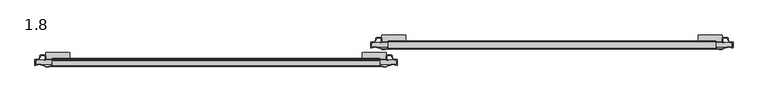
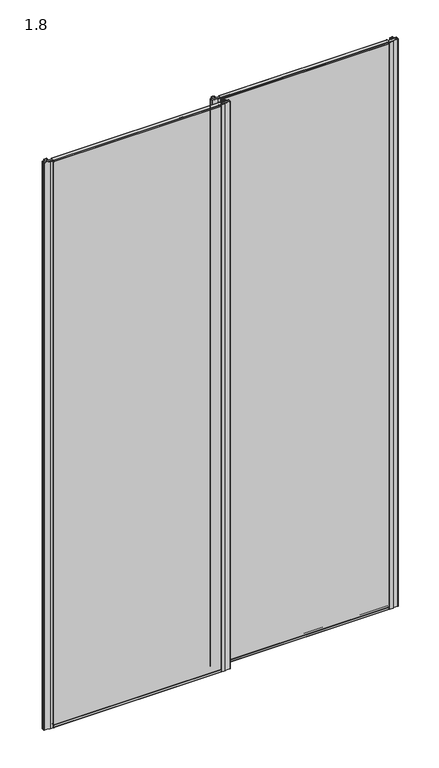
"""IFC4 building model written with IfcOpenShell, lengths in millimetres: proxy geometry, Doors-Other- SOGAL-SOG020022 : 1.8."""

from ifc_helpers import new_model, si_unit, point, frame, frame_2d, origin, place, context, project, spatial, polyline, circle_curve, trimmed, segment, composite_curve, outline, extrude, source, transform, mapped, element, save
from ifc_brep_helpers import plane_surface, cylinder_surface, advanced_brep


def proxy_1_8_f4c32746(model_context):
    return source(origin(), model_context, "Body", "SolidModel", [
        extrude(outline(polyline([(35.7189733, 0.5001148), (33.2189805, 0.5001148), (31.7000096, 9.1146495), (35.3189977, 9.1146495), (35.3189977, 1.8001808), (37.0189963, 1.8001808), (35.7189733, 0.5001148)])), frame((-3.431231, 0.0, 0.0), z_axis=(1.0, 0.0, 0.0), x_axis=(0.0, 1.0, 0.0)), (0.0, 0.0, 1.0), 3.4418784),
        extrude(outline(polyline([(31.9189872, 0.5001148), (30.6189642, 1.8001808), (32.3189628, 1.8001808), (32.3189628, 9.1146495), (35.9379509, 9.1146495), (34.41898, 0.5001148), (31.9189872, 0.5001148)])), frame((0.3258571, 0.0, 0.0), z_axis=(1.0, 0.0, 0.0), x_axis=(0.0, 1.0, 0.0)), (0.0, 0.0, 1.0), 3.3556559),
        advanced_brep(
        [(5.6593371, 38.8253348, 101.7001877), (4.165725, 40.3189469, 101.7001877), (-48.1393518, 40.3189469, 101.7001877), (-49.6393329, 38.8189658, 101.7001877), (-49.6393556, 26.6175523, 101.7001877), (-48.6393531, 25.6190084, 101.7001877), (4.6607357, 25.6190084, 101.7001877), (5.6607474, 26.61902, 101.7001877), (5.6607474, 38.8189658, 9.1146495), (5.6607474, 26.61902, 9.1146495), (4.6607357, 25.6190084, 9.1146495), (-48.6393531, 25.6190084, 9.1146495), (-49.637897, 26.6175523, 9.1146495), (-49.6393556, 38.8189658, 9.1146495), (-48.1393518, 40.3189469, 9.1146495), (4.165725, 40.3189469, 9.1146495)],
        [
            (0, 1, circle_curve(frame((4.165725, 38.8253348, 101.7001877), z_axis=(0.0, 0.0, 1.0), x_axis=(-1.0, 0.0, 0.0)), 1.4936121)),
            (1, 2),
            (2, 3, circle_curve(frame((-48.1393518, 38.8189658, 101.7001877), z_axis=(0.0, 0.0, 1.0), x_axis=(-1.0, 0.0, 0.0)), 1.4999811)),
            (3, 4),
            (4, 5, circle_curve(frame((-48.6393531, 26.6175523, 101.7001877), z_axis=(0.0, 0.0, 1.0), x_axis=(-1.0, 0.0, 0.0)), 0.9985439)),
            (5, 6),
            (6, 7, circle_curve(frame((4.6607357, 26.61902, 101.7001877), z_axis=(0.0, 0.0, 1.0), x_axis=(-1.0, 0.0, 0.0)), 1.0000116)),
            (7, 0),
            (8, 9),
            (9, 10, circle_curve(frame((4.6607357, 26.61902, 9.1146495), z_axis=(0.0, 0.0, -1.0), x_axis=(-1.0, 0.0, 0.0)), 1.0000116)),
            (10, 11),
            (11, 12, circle_curve(frame((-48.6393531, 26.6175523, 9.1146495), z_axis=(0.0, 0.0, -1.0), x_axis=(-1.0, 0.0, 0.0)), 0.9985439)),
            (12, 13),
            (13, 14, circle_curve(frame((-48.1393518, 38.8189658, 9.1146495), z_axis=(0.0, 0.0, -1.0), x_axis=(-1.0, 0.0, 0.0)), 1.4999811)),
            (14, 15),
            (15, 8, circle_curve(frame((4.165725, 38.8253348, 9.1146495), z_axis=(0.0, 0.0, -1.0), x_axis=(-1.0, 0.0, 0.0)), 1.4936121)),
            (7, 9),
            (8, 0),
            (6, 10),
            (5, 11),
            (4, 12),
            (3, 13),
            (2, 14),
            (1, 15),
        ],
        [
            plane_surface(frame((5.6607474, 31.1939588, 101.7001877), z_axis=(0.0, 0.0, 1.0), x_axis=(0.0, -1.0, 0.0))),
            plane_surface(frame((5.6607474, 31.1939588, 9.1146495), z_axis=(0.0, 0.0, -1.0), x_axis=(0.0, 1.0, 0.0))),
            plane_surface(frame((5.6607474, 38.8189658, 101.7001877), z_axis=(1.0, 0.0, 0.0), x_axis=(0.0, 0.0, -1.0))),
            cylinder_surface(frame((4.6607357, 26.61902, 9.1146495), z_axis=(0.0, 0.0, 1.0), x_axis=(-1.0, 0.0, 0.0)), 1.0000116),
            plane_surface(frame((4.6607357, 25.6190084, 101.7001877), z_axis=(0.0, -1.0, 0.0), x_axis=(0.0, 0.0, -1.0))),
            cylinder_surface(frame((-48.6393531, 26.6175523, 9.1146495), z_axis=(0.0, 0.0, 1.0), x_axis=(-1.0, 0.0, 0.0)), 0.9985439),
            plane_surface(frame((-49.6393556, 26.6175523, 101.7001877), z_axis=(-1.0, 0.0, 0.0), x_axis=(0.0, 0.0, -1.0))),
            cylinder_surface(frame((-48.1393518, 38.8189658, 9.1146495), z_axis=(0.0, 0.0, 1.0), x_axis=(-1.0, 0.0, 0.0)), 1.4999811),
            plane_surface(frame((-48.1393518, 40.3189469, 101.7001877), z_axis=(0.0, 1.0, 0.0), x_axis=(0.0, 0.0, -1.0))),
            cylinder_surface(frame((4.165725, 38.8253348, 9.1146495), z_axis=(0.0, 0.0, 1.0), x_axis=(-1.0, 0.0, 0.0)), 1.4936121),
        ],
        [
            (0, [[1, 2, 3, 4, 5, 6, 7, 8]]),
            (1, [[9, 10, 11, 12, 13, 14, 15, 16]]),
            (2, [[17, -9, 18, -8]]),
            (3, [[19, -10, -17, -7]]),
            (4, [[20, -11, -19, -6]]),
            (5, [[21, -12, -20, -5]]),
            (6, [[22, -13, -21, -4]]),
            (7, [[23, -14, -22, -3]]),
            (8, [[24, -15, -23, -2]]),
            (9, [[-18, -16, -24, -1]]),
        ],
    ),
        extrude(outline(polyline([(35.7189733, 0.5001148), (33.2189805, 0.5001148), (31.7000096, 9.1146495), (35.3189977, 9.1146495), (35.3189977, 1.8001808), (37.0189963, 1.8001808), (35.7189733, 0.5001148)])), frame((-43.9893513, 0.0, 0.0), z_axis=(1.0, 0.0, 0.0), x_axis=(0.0, 1.0, 0.0)), (0.0, 0.0, 1.0), 3.4418784),
        extrude(outline(polyline([(31.9189872, 0.5001148), (30.6189642, 1.8001808), (32.3189628, 1.8001808), (32.3189628, 9.1146495), (35.9379509, 9.1146495), (34.41898, 0.5001148), (31.9189872, 0.5001148)])), frame((-47.6602169, 0.0, 0.0), z_axis=(1.0, 0.0, 0.0), x_axis=(0.0, 1.0, 0.0)), (0.0, 0.0, 1.0), 3.3556559),
        extrude(outline(composite_curve([segment(trimmed(circle_curve(frame_2d((18.4478565, -21.9704877)), 17.4793341), [point((18.4478565, -4.4911536))], [point((18.4478565, -39.4498218))], False, "CARTESIAN"), True, "CONTINUOUS"), segment(trimmed(circle_curve(frame_2d((18.4478565, -21.9704877)), 17.4793341), [point((18.4478565, -39.4498218))], [point((18.4478565, -4.4911536))], False, "CARTESIAN"), True, "CONTINUOUS")], self_intersect=False)), frame((0.0, 29.818061, 0.0), z_axis=(0.0, 1.0, 0.0), x_axis=(0.0, 0.0, 1.0)), (0.0, 0.0, 1.0), 7.9147389),
        extrude(outline(polyline([(35.7189733, 0.5001148), (33.2189805, 0.5001148), (31.7000096, 9.1146495), (35.3189977, 9.1146495), (35.3189977, 1.8001808), (37.0189963, 1.8001808), (35.7189733, 0.5001148)])), frame((-729.4523014, 0.0, 0.0), z_axis=(1.0, 0.0, 0.0), x_axis=(0.0, 1.0, 0.0)), (0.0, 0.0, 1.0), 3.4418784),
        extrude(outline(polyline([(31.9189872, 0.5001148), (30.6189642, 1.8001808), (32.3189628, 1.8001808), (32.3189628, 9.1146495), (35.9379509, 9.1146495), (34.41898, 0.5001148), (31.9189872, 0.5001148)])), frame((-725.6952133, 0.0, 0.0), z_axis=(1.0, 0.0, 0.0), x_axis=(0.0, 1.0, 0.0)), (0.0, 0.0, 1.0), 3.3556559),
        advanced_brep(
        [(-720.3617334, 38.8253348, 101.7001877), (-721.8553455, 40.3189469, 101.7001877), (-774.1604222, 40.3189469, 101.7001877), (-775.6604033, 38.8189658, 101.7001877), (-775.660426, 26.6175523, 101.7001877), (-774.6604235, 25.6190084, 101.7001877), (-721.3603347, 25.6190084, 101.7001877), (-720.360323, 26.61902, 101.7001877), (-720.360323, 38.8189658, 9.1146495), (-720.360323, 26.61902, 9.1146495), (-721.3603347, 25.6190084, 9.1146495), (-774.6604235, 25.6190084, 9.1146495), (-775.6589674, 26.6175523, 9.1146495), (-775.660426, 38.8189658, 9.1146495), (-774.1604222, 40.3189469, 9.1146495), (-721.8553455, 40.3189469, 9.1146495)],
        [
            (0, 1, circle_curve(frame((-721.8553455, 38.8253348, 101.7001877), z_axis=(0.0, 0.0, 1.0), x_axis=(-1.0, 0.0, 0.0)), 1.4936121)),
            (1, 2),
            (2, 3, circle_curve(frame((-774.1604222, 38.8189658, 101.7001877), z_axis=(0.0, 0.0, 1.0), x_axis=(-1.0, 0.0, 0.0)), 1.4999811)),
            (3, 4),
            (4, 5, circle_curve(frame((-774.6604235, 26.6175523, 101.7001877), z_axis=(0.0, 0.0, 1.0), x_axis=(-1.0, 0.0, 0.0)), 0.9985439)),
            (5, 6),
            (6, 7, circle_curve(frame((-721.3603347, 26.61902, 101.7001877), z_axis=(0.0, 0.0, 1.0), x_axis=(-1.0, 0.0, 0.0)), 1.0000116)),
            (7, 0),
            (8, 9),
            (9, 10, circle_curve(frame((-721.3603347, 26.61902, 9.1146495), z_axis=(0.0, 0.0, -1.0), x_axis=(-1.0, 0.0, 0.0)), 1.0000116)),
            (10, 11),
            (11, 12, circle_curve(frame((-774.6604235, 26.6175523, 9.1146495), z_axis=(0.0, 0.0, -1.0), x_axis=(-1.0, 0.0, 0.0)), 0.9985439)),
            (12, 13),
            (13, 14, circle_curve(frame((-774.1604222, 38.8189658, 9.1146495), z_axis=(0.0, 0.0, -1.0), x_axis=(-1.0, 0.0, 0.0)), 1.4999811)),
            (14, 15),
            (15, 8, circle_curve(frame((-721.8553455, 38.8253348, 9.1146495), z_axis=(0.0, 0.0, -1.0), x_axis=(-1.0, 0.0, 0.0)), 1.4936121)),
            (7, 9),
            (8, 0),
            (6, 10),
            (5, 11),
            (4, 12),
            (3, 13),
            (2, 14),
            (1, 15),
        ],
        [
            plane_surface(frame((-720.360323, 31.1939588, 101.7001877), z_axis=(0.0, 0.0, 1.0), x_axis=(0.0, -1.0, 0.0))),
            plane_surface(frame((-720.360323, 31.1939588, 9.1146495), z_axis=(0.0, 0.0, -1.0), x_axis=(0.0, 1.0, 0.0))),
            plane_surface(frame((-720.360323, 38.8189658, 101.7001877), z_axis=(1.0, 0.0, 0.0), x_axis=(0.0, 0.0, -1.0))),
            cylinder_surface(frame((-721.3603347, 26.61902, 9.1146495), z_axis=(0.0, 0.0, 1.0), x_axis=(-1.0, 0.0, 0.0)), 1.0000116),
            plane_surface(frame((-721.3603347, 25.6190084, 101.7001877), z_axis=(0.0, -1.0, 0.0), x_axis=(0.0, 0.0, -1.0))),
            cylinder_surface(frame((-774.6604235, 26.6175523, 9.1146495), z_axis=(0.0, 0.0, 1.0), x_axis=(-1.0, 0.0, 0.0)), 0.9985439),
            plane_surface(frame((-775.660426, 26.6175523, 101.7001877), z_axis=(-1.0, 0.0, 0.0), x_axis=(0.0, 0.0, -1.0))),
            cylinder_surface(frame((-774.1604222, 38.8189658, 9.1146495), z_axis=(0.0, 0.0, 1.0), x_axis=(-1.0, 0.0, 0.0)), 1.4999811),
            plane_surface(frame((-774.1604222, 40.3189469, 101.7001877), z_axis=(0.0, 1.0, 0.0), x_axis=(0.0, 0.0, -1.0))),
            cylinder_surface(frame((-721.8553455, 38.8253348, 9.1146495), z_axis=(0.0, 0.0, 1.0), x_axis=(-1.0, 0.0, 0.0)), 1.4936121),
        ],
        [
            (0, [[1, 2, 3, 4, 5, 6, 7, 8]]),
            (1, [[9, 10, 11, 12, 13, 14, 15, 16]]),
            (2, [[17, -9, 18, -8]]),
            (3, [[19, -10, -17, -7]]),
            (4, [[20, -11, -19, -6]]),
            (5, [[21, -12, -20, -5]]),
            (6, [[22, -13, -21, -4]]),
            (7, [[23, -14, -22, -3]]),
            (8, [[24, -15, -23, -2]]),
            (9, [[-18, -16, -24, -1]]),
        ],
    ),
        extrude(outline(polyline([(35.7189733, 0.5001148), (33.2189805, 0.5001148), (31.7000096, 9.1146495), (35.3189977, 9.1146495), (35.3189977, 1.8001808), (37.0189963, 1.8001808), (35.7189733, 0.5001148)])), frame((-770.0104217, 0.0, 0.0), z_axis=(1.0, 0.0, 0.0), x_axis=(0.0, 1.0, 0.0)), (0.0, 0.0, 1.0), 3.4418784),
        extrude(outline(polyline([(31.9189872, 0.5001148), (30.6189642, 1.8001808), (32.3189628, 1.8001808), (32.3189628, 9.1146495), (35.9379509, 9.1146495), (34.41898, 0.5001148), (31.9189872, 0.5001148)])), frame((-773.6812873, 0.0, 0.0), z_axis=(1.0, 0.0, 0.0), x_axis=(0.0, 1.0, 0.0)), (0.0, 0.0, 1.0), 3.3556559),
        extrude(outline(composite_curve([segment(trimmed(circle_curve(frame_2d((18.4478565, -747.9915581)), 17.4793341), [point((18.4478565, -730.512224))], [point((18.4478565, -765.4708922))], False, "CARTESIAN"), True, "CONTINUOUS"), segment(trimmed(circle_curve(frame_2d((18.4478565, -747.9915581)), 17.4793341), [point((18.4478565, -765.4708922))], [point((18.4478565, -730.512224))], False, "CARTESIAN"), True, "CONTINUOUS")], self_intersect=False)), frame((0.0, 29.818061, 0.0), z_axis=(0.0, 1.0, 0.0), x_axis=(0.0, 0.0, 1.0)), (0.0, 0.0, 1.0), 7.9147389),
        extrude(outline(composite_curve([segment(trimmed(circle_curve(frame_2d((-761.2399903, 11.1215219)), 1.0), [point((-761.2399903, 12.1215219))], [point((-760.2399903, 11.1215219))], False, "CARTESIAN"), True, "CONTINUOUS"), segment(polyline([(-760.2399903, 11.1215219), (-760.2399903, 8.6215219)]), True, "CONTINUOUS"), segment(trimmed(circle_curve(frame_2d((-761.0399903, 8.6215219)), 0.8), [point((-760.2399903, 8.6215219))], [point((-760.8226512, 7.8516104))], False, "CARTESIAN"), True, "CONTINUOUS"), segment(trimmed(circle_curve(frame_2d((-773.3196483, 52.1215219)), 46.0), [point((-760.8226512, 7.8516104))], [point((-775.622204, 6.1791859))], False, "CARTESIAN"), True, "CONTINUOUS"), segment(trimmed(circle_curve(frame_2d((-790.4791363, -11.3784781)), 23.0), [point((-775.622204, 6.1791859))], [point((-798.8749547, 10.034374))], True, "CARTESIAN"), True, "CONTINUOUS"), segment(trimmed(circle_curve(frame_2d((-799.2399903, 10.9653675)), 1.0), [point((-798.8749547, 10.034374))], [point((-800.2399903, 10.9653675))], False, "CARTESIAN"), True, "CONTINUOUS"), segment(polyline([(-800.2399903, 10.9653675), (-800.2399903, 22.4653675)]), True, "CONTINUOUS"), segment(trimmed(circle_curve(frame_2d((-799.2399903, 22.4653675)), 1.0), [point((-800.2399903, 22.4653675))], [point((-798.961542, 23.4258188))], False, "CARTESIAN"), True, "CONTINUOUS"), segment(trimmed(circle_curve(frame_2d((-796.7339556, 31.1094285)), 8.0), [point((-798.961542, 23.4258188))], [point((-788.7385535, 31.3806201))], True, "CARTESIAN"), True, "CONTINUOUS"), segment(trimmed(circle_curve(frame_2d((-786.2399903, 31.4653675)), 2.5), [point((-788.7385535, 31.3806201))], [point((-786.2399903, 33.9653675))], False, "CARTESIAN"), True, "CONTINUOUS"), segment(polyline([(-786.2399903, 33.9653675), (-777.7399903, 33.9653675)]), True, "CONTINUOUS"), segment(trimmed(circle_curve(frame_2d((-777.7399903, 31.4653675)), 2.5), [point((-777.7399903, 33.9653675))], [point((-775.2399903, 31.4653675))], False, "CARTESIAN"), True, "CONTINUOUS"), segment(polyline([(-775.2399903, 31.4653675), (-775.2399903, 25.1974183), (-777.3946909, 21.4653675), (-778.0875112, 21.8653675), (-776.0399903, 25.4117777), (-776.0399903, 31.4653675)]), True, "CONTINUOUS"), segment(trimmed(circle_curve(frame_2d((-777.7399903, 31.4653675)), 1.7), [point((-776.0399903, 31.4653675))], [point((-777.7399903, 33.1653675))], True, "CARTESIAN"), True, "CONTINUOUS"), segment(polyline([(-777.7399903, 33.1653675), (-786.2399903, 33.1653675)]), True, "CONTINUOUS"), segment(trimmed(circle_curve(frame_2d((-786.2399903, 31.4653675)), 1.7), [point((-786.2399903, 33.1653675))], [point((-787.9390133, 31.4077393))], True, "CARTESIAN"), True, "CONTINUOUS"), segment(trimmed(circle_curve(frame_2d((-796.7339556, 31.1094285)), 8.8), [point((-787.9390133, 31.4077393))], [point((-799.4399903, 22.7358166))], False, "CARTESIAN"), True, "CONTINUOUS"), segment(polyline([(-799.4399903, 22.7358166), (-799.4399903, 10.6701748)]), True, "CONTINUOUS"), segment(trimmed(circle_curve(frame_2d((-790.4791363, -11.3784781)), 23.8), [point((-799.4399903, 10.6701748))], [point((-775.3155471, 6.9656099))], False, "CARTESIAN"), True, "CONTINUOUS"), segment(trimmed(circle_curve(frame_2d((-773.3196483, 52.1215219)), 45.2), [point((-775.3155471, 6.9656099))], [point((-761.0399903, 8.6215219))], True, "CARTESIAN"), True, "CONTINUOUS"), segment(polyline([(-761.0399903, 8.6215219), (-761.0399903, 11.3215219), (-762.2399903, 11.3215219), (-762.2399903, 12.1215219), (-761.2399903, 12.1215219)]), True, "CONTINUOUS")], self_intersect=False)), frame((0.0, 0.0, 11.3999946), z_axis=(0.0, 0.0, 1.0), x_axis=(1.0, 0.0, 0.0)), (0.0, 0.0, 1.0), 2670.5),
        extrude(outline(composite_curve([segment(polyline([(-8.7600122, 12.1215401), (-7.7600122, 12.1215401), (-7.7600122, 11.3215401), (-8.9600122, 11.3215401), (-8.9600122, 8.6215401)]), True, "CONTINUOUS"), segment(trimmed(circle_curve(frame_2d((3.3196457, 52.1215401)), 45.2), [point((-8.9600122, 8.6215401))], [point((5.3155446, 6.9656281))], True, "CARTESIAN"), True, "CONTINUOUS"), segment(trimmed(circle_curve(frame_2d((20.4791337, -11.3784599)), 23.8), [point((5.3155446, 6.9656281))], [point((29.4399878, 10.670193))], False, "CARTESIAN"), True, "CONTINUOUS"), segment(polyline([(29.4399878, 10.670193), (29.4399878, 22.7358348)]), True, "CONTINUOUS"), segment(trimmed(circle_curve(frame_2d((26.7339531, 31.1094467)), 8.8), [point((29.4399878, 22.7358348))], [point((17.9390107, 31.4077575))], False, "CARTESIAN"), True, "CONTINUOUS"), segment(trimmed(circle_curve(frame_2d((16.2399878, 31.4653857)), 1.7), [point((17.9390107, 31.4077575))], [point((16.2399878, 33.1653857))], True, "CARTESIAN"), True, "CONTINUOUS"), segment(polyline([(16.2399878, 33.1653857), (7.7399878, 33.1653857)]), True, "CONTINUOUS"), segment(trimmed(circle_curve(frame_2d((7.7399878, 31.4653857)), 1.7), [point((7.7399878, 33.1653857))], [point((6.0399878, 31.4653857))], True, "CARTESIAN"), True, "CONTINUOUS"), segment(polyline([(6.0399878, 31.4653857), (6.0399878, 25.4117959), (8.0875086, 21.8653857), (7.3946883, 21.4653857), (5.2399878, 25.1974365), (5.2399878, 31.4653857)]), True, "CONTINUOUS"), segment(trimmed(circle_curve(frame_2d((7.7399878, 31.4653857)), 2.5), [point((5.2399878, 31.4653857))], [point((7.7399878, 33.9653857))], False, "CARTESIAN"), True, "CONTINUOUS"), segment(polyline([(7.7399878, 33.9653857), (16.2399878, 33.9653857)]), True, "CONTINUOUS"), segment(trimmed(circle_curve(frame_2d((16.2399878, 31.4653857)), 2.5), [point((16.2399878, 33.9653857))], [point((18.7385509, 31.3806383))], False, "CARTESIAN"), True, "CONTINUOUS"), segment(trimmed(circle_curve(frame_2d((26.7339531, 31.1094467)), 8.0), [point((18.7385509, 31.3806383))], [point((28.9615395, 23.4258369))], True, "CARTESIAN"), True, "CONTINUOUS"), segment(trimmed(circle_curve(frame_2d((29.2399878, 22.4653857)), 1.0), [point((28.9615395, 23.4258369))], [point((30.2399878, 22.4653857))], False, "CARTESIAN"), True, "CONTINUOUS"), segment(polyline([(30.2399878, 22.4653857), (30.2399878, 10.9653857)]), True, "CONTINUOUS"), segment(trimmed(circle_curve(frame_2d((29.2399878, 10.9653857)), 1.0), [point((30.2399878, 10.9653857))], [point((28.8749522, 10.0343921))], False, "CARTESIAN"), True, "CONTINUOUS"), segment(trimmed(circle_curve(frame_2d((20.4791337, -11.3784599)), 23.0), [point((28.8749522, 10.0343921))], [point((5.6222015, 6.1792041))], True, "CARTESIAN"), True, "CONTINUOUS"), segment(trimmed(circle_curve(frame_2d((3.3196457, 52.1215401)), 46.0), [point((5.6222015, 6.1792041))], [point((-9.1773513, 7.8516286))], False, "CARTESIAN"), True, "CONTINUOUS"), segment(trimmed(circle_curve(frame_2d((-8.9600122, 8.6215401)), 0.8), [point((-9.1773513, 7.8516286))], [point((-9.7600122, 8.6215401))], False, "CARTESIAN"), True, "CONTINUOUS"), segment(polyline([(-9.7600122, 8.6215401), (-9.7600122, 11.1215401)]), True, "CONTINUOUS"), segment(trimmed(circle_curve(frame_2d((-8.7600122, 11.1215401)), 1.0), [point((-9.7600122, 11.1215401))], [point((-8.7600122, 12.1215401))], False, "CARTESIAN"), True, "CONTINUOUS")], self_intersect=False)), frame((0.0, 0.0, 11.0066611), z_axis=(0.0, 0.0, 1.0), x_axis=(1.0, 0.0, 0.0)), (0.0, 0.0, 1.0), 2670.5),
        extrude(outline(polyline([(-797.6890865, 12.1215401), (-797.6890865, 22.1514148), (28.5106576, 22.1514148), (28.5106576, 12.1215401), (-797.6890865, 12.1215401)])), frame((0.0, 0.0, 11.3999946), z_axis=(0.0, 0.0, 1.0), x_axis=(1.0, 0.0, 0.0)), (0.0, 0.0, 1.0), 2669.6935975),
        extrude(outline(composite_curve([segment(trimmed(circle_curve(frame_2d((22.2592296, 2673.9404976)), 1.2033106), [point((23.3614535, 2673.4577358))], [point((21.0612487, 2674.0536265))], False, "CARTESIAN"), True, "CONTINUOUS"), segment(polyline([(21.0612487, 2674.0536265), (21.2989118, 2675.004279), (22.1488822, 2674.7917387), (21.9062585, 2673.8214619)]), True, "CONTINUOUS"), segment(trimmed(circle_curve(frame_2d((22.3913712, 2673.7001564)), 0.5000494), [point((21.9062585, 2673.8214619))], [point((22.8764904, 2673.5788766))], True, "CARTESIAN"), True, "CONTINUOUS"), segment(polyline([(22.8764904, 2673.5788766), (24.8764925, 2681.5788849)]), True, "CONTINUOUS"), segment(trimmed(circle_curve(frame_2d((24.3914212, 2681.7001528)), 0.5), [point((24.8764925, 2681.5788849))], [point((24.3914212, 2682.2001528))], True, "CARTESIAN"), True, "CONTINUOUS"), segment(polyline([(24.3914212, 2682.2001528), (9.3913237, 2682.2001528)]), True, "CONTINUOUS"), segment(trimmed(circle_curve(frame_2d((9.3913237, 2681.7001528)), 0.5), [point((9.3913237, 2682.2001528))], [point((8.9062524, 2681.5788849))], True, "CARTESIAN"), True, "CONTINUOUS"), segment(polyline([(8.9062524, 2681.5788849), (10.9062545, 2673.5788766)]), True, "CONTINUOUS"), segment(trimmed(circle_curve(frame_2d((11.3913736, 2673.7001564)), 0.5000494), [point((10.9062545, 2673.5788766))], [point((11.8764864, 2673.8214619))], True, "CARTESIAN"), True, "CONTINUOUS"), segment(polyline([(11.8764864, 2673.8214619), (11.6338627, 2674.7917387), (12.483833, 2675.004279), (12.7214962, 2674.0536265)]), True, "CONTINUOUS"), segment(trimmed(circle_curve(frame_2d((11.5235152, 2673.9404976)), 1.2033106), [point((12.7214962, 2674.0536265))], [point((10.4212913, 2673.4577358))], False, "CARTESIAN"), True, "CONTINUOUS"), segment(polyline([(10.4212913, 2673.4577358), (8.4212681, 2681.4577562)]), True, "CONTINUOUS"), segment(trimmed(circle_curve(frame_2d((9.3913328, 2681.7002746)), 0.9999203), [point((8.4212681, 2681.4577562))], [point((9.3913328, 2682.7001949))], False, "CARTESIAN"), True, "CONTINUOUS"), segment(polyline([(9.3913328, 2682.7001949), (24.3914121, 2682.7001949)]), True, "CONTINUOUS"), segment(trimmed(circle_curve(frame_2d((24.3914121, 2681.7002746)), 0.9999203), [point((24.3914121, 2682.7001949))], [point((25.3614768, 2681.4577562))], False, "CARTESIAN"), True, "CONTINUOUS"), segment(polyline([(25.3614768, 2681.4577562), (23.3614535, 2673.4577358)]), True, "CONTINUOUS")], self_intersect=False)), frame((-760.0, 0.0, 0.0), z_axis=(1.0, 0.0, 0.0), x_axis=(0.0, 1.0, 0.0)), (0.0, 0.0, 1.0), 749.8830146),
        extrude(outline(composite_curve([segment(polyline([(23.3614535, 19.7424723), (25.3614768, 11.7424519)]), True, "CONTINUOUS"), segment(trimmed(circle_curve(frame_2d((24.3914121, 11.4999335)), 0.9999203), [point((25.3614768, 11.7424519))], [point((24.3914121, 10.5000132))], False, "CARTESIAN"), True, "CONTINUOUS"), segment(polyline([(24.3914121, 10.5000132), (9.3913328, 10.5000132)]), True, "CONTINUOUS"), segment(trimmed(circle_curve(frame_2d((9.3913328, 11.4999335)), 0.9999203), [point((9.3913328, 10.5000132))], [point((8.4212681, 11.7424519))], False, "CARTESIAN"), True, "CONTINUOUS"), segment(polyline([(8.4212681, 11.7424519), (10.4212913, 19.7424723)]), True, "CONTINUOUS"), segment(trimmed(circle_curve(frame_2d((11.5235152, 19.2597105)), 1.2033106), [point((10.4212913, 19.7424723))], [point((12.7214962, 19.1465816))], False, "CARTESIAN"), True, "CONTINUOUS"), segment(polyline([(12.7214962, 19.1465816), (12.483833, 18.1959291), (11.6338627, 18.4084694), (11.8764864, 19.3787462)]), True, "CONTINUOUS"), segment(trimmed(circle_curve(frame_2d((11.3913736, 19.5000516)), 0.5000494), [point((11.8764864, 19.3787462))], [point((10.9062545, 19.6213314))], True, "CARTESIAN"), True, "CONTINUOUS"), segment(polyline([(10.9062545, 19.6213314), (8.9062524, 11.6213231)]), True, "CONTINUOUS"), segment(trimmed(circle_curve(frame_2d((9.3913237, 11.5000553)), 0.5), [point((8.9062524, 11.6213231))], [point((9.3913237, 11.0000553))], True, "CARTESIAN"), True, "CONTINUOUS"), segment(polyline([(9.3913237, 11.0000553), (24.3914212, 11.0000553)]), True, "CONTINUOUS"), segment(trimmed(circle_curve(frame_2d((24.3914212, 11.5000553)), 0.5), [point((24.3914212, 11.0000553))], [point((24.8764925, 11.6213231))], True, "CARTESIAN"), True, "CONTINUOUS"), segment(polyline([(24.8764925, 11.6213231), (22.8764904, 19.6213314)]), True, "CONTINUOUS"), segment(trimmed(circle_curve(frame_2d((22.3913712, 19.5000516)), 0.5000494), [point((22.8764904, 19.6213314))], [point((21.9062585, 19.3787462))], True, "CARTESIAN"), True, "CONTINUOUS"), segment(polyline([(21.9062585, 19.3787462), (22.1488822, 18.4084694), (21.2989118, 18.1959291), (21.0612487, 19.1465816)]), True, "CONTINUOUS"), segment(trimmed(circle_curve(frame_2d((22.2592296, 19.2597105)), 1.2033106), [point((21.0612487, 19.1465816))], [point((23.3614535, 19.7424723))], False, "CARTESIAN"), True, "CONTINUOUS")], self_intersect=False)), frame((-760.0, 0.0, 0.0), z_axis=(1.0, 0.0, 0.0), x_axis=(0.0, 1.0, 0.0)), (0.0, 0.0, 1.0), 749.8830146),
        extrude(outline(polyline([(75.9560703, 0.5001148), (73.4560775, 0.5001148), (71.9371066, 9.1146495), (75.5560947, 9.1146495), (75.5560947, 1.8001808), (77.2560933, 1.8001808), (75.9560703, 0.5001148)])), frame((-0.0106474, 0.0, 0.0), z_axis=(1.0, 0.0, 0.0), x_axis=(0.0, 1.0, 0.0)), (0.0, 0.0, 1.0), 3.4418784),
        extrude(outline(polyline([(72.1560842, 0.5001148), (70.8560612, 1.8001808), (72.5560598, 1.8001808), (72.5560598, 9.1146495), (76.1750479, 9.1146495), (74.656077, 0.5001148), (72.1560842, 0.5001148)])), frame((-3.681513, 0.0, 0.0), z_axis=(1.0, 0.0, 0.0), x_axis=(0.0, 1.0, 0.0)), (0.0, 0.0, 1.0), 3.3556559),
        advanced_brep(
        [(-5.6607474, 79.0560628, 101.7001877), (-5.6607474, 66.856117, 101.7001877), (-4.6607357, 65.8561054, 101.7001877), (48.6393531, 65.8561054, 101.7001877), (49.637897, 66.8546493, 101.7001877), (49.6393556, 79.0560628, 101.7001877), (48.1393518, 80.5560439, 101.7001877), (-4.165725, 80.5560439, 101.7001877), (-5.6593371, 79.0624318, 9.1146495), (-4.165725, 80.5560439, 9.1146495), (48.1393518, 80.5560439, 9.1146495), (49.6393329, 79.0560628, 9.1146495), (49.6393556, 66.8546493, 9.1146495), (48.6393531, 65.8561054, 9.1146495), (-4.6607357, 65.8561054, 9.1146495), (-5.6607474, 66.856117, 9.1146495)],
        [
            (0, 1),
            (1, 2, circle_curve(frame((-4.6607357, 66.856117, 101.7001877), z_axis=(0.0, 0.0, 1.0), x_axis=(1.0, 0.0, 0.0)), 1.0000116)),
            (2, 3),
            (3, 4, circle_curve(frame((48.6393531, 66.8546493, 101.7001877), z_axis=(0.0, 0.0, 1.0), x_axis=(1.0, 0.0, 0.0)), 0.9985439)),
            (4, 5),
            (5, 6, circle_curve(frame((48.1393518, 79.0560628, 101.7001877), z_axis=(0.0, 0.0, 1.0), x_axis=(1.0, 0.0, 0.0)), 1.4999811)),
            (6, 7),
            (7, 0, circle_curve(frame((-4.165725, 79.0624318, 101.7001877), z_axis=(0.0, 0.0, 1.0), x_axis=(1.0, 0.0, 0.0)), 1.4936121)),
            (8, 9, circle_curve(frame((-4.165725, 79.0624318, 9.1146495), z_axis=(0.0, 0.0, -1.0), x_axis=(1.0, 0.0, 0.0)), 1.4936121)),
            (9, 10),
            (10, 11, circle_curve(frame((48.1393518, 79.0560628, 9.1146495), z_axis=(0.0, 0.0, -1.0), x_axis=(1.0, 0.0, 0.0)), 1.4999811)),
            (11, 12),
            (12, 13, circle_curve(frame((48.6393531, 66.8546493, 9.1146495), z_axis=(0.0, 0.0, -1.0), x_axis=(1.0, 0.0, 0.0)), 0.9985439)),
            (13, 14),
            (14, 15, circle_curve(frame((-4.6607357, 66.856117, 9.1146495), z_axis=(0.0, 0.0, -1.0), x_axis=(1.0, 0.0, 0.0)), 1.0000116)),
            (15, 8),
            (0, 8),
            (15, 1),
            (14, 2),
            (13, 3),
            (12, 4),
            (11, 5),
            (10, 6),
            (9, 7),
        ],
        [
            plane_surface(frame((-5.6607474, 71.4310558, 101.7001877), z_axis=(0.0, 0.0, 1.0), x_axis=(0.0, -1.0, 0.0))),
            plane_surface(frame((-5.6607474, 71.4310558, 9.1146495), z_axis=(0.0, 0.0, -1.0), x_axis=(0.0, 1.0, 0.0))),
            plane_surface(frame((-5.6607474, 79.0560628, 101.7001877), z_axis=(-1.0, 0.0, 0.0), x_axis=(0.0, 0.0, -1.0))),
            cylinder_surface(frame((-4.6607357, 66.856117, 9.1146495), z_axis=(0.0, 0.0, 1.0), x_axis=(1.0, 0.0, 0.0)), 1.0000116),
            plane_surface(frame((-4.6607357, 65.8561054, 101.7001877), z_axis=(0.0, -1.0, 0.0), x_axis=(0.0, 0.0, -1.0))),
            cylinder_surface(frame((48.6393531, 66.8546493, 9.1146495), z_axis=(0.0, 0.0, 1.0), x_axis=(1.0, 0.0, 0.0)), 0.9985439),
            plane_surface(frame((49.6393556, 66.8546493, 101.7001877), z_axis=(1.0, 0.0, 0.0), x_axis=(0.0, 0.0, -1.0))),
            cylinder_surface(frame((48.1393518, 79.0560628, 9.1146495), z_axis=(0.0, 0.0, 1.0), x_axis=(1.0, 0.0, 0.0)), 1.4999811),
            plane_surface(frame((48.1393518, 80.5560439, 101.7001877), z_axis=(0.0, 1.0, 0.0), x_axis=(0.0, 0.0, -1.0))),
            cylinder_surface(frame((-4.165725, 79.0624318, 9.1146495), z_axis=(0.0, 0.0, 1.0), x_axis=(1.0, 0.0, 0.0)), 1.4936121),
        ],
        [
            (0, [[1, 2, 3, 4, 5, 6, 7, 8]]),
            (1, [[9, 10, 11, 12, 13, 14, 15, 16]]),
            (2, [[-1, 17, -16, 18]]),
            (3, [[-2, -18, -15, 19]]),
            (4, [[-3, -19, -14, 20]]),
            (5, [[-4, -20, -13, 21]]),
            (6, [[-5, -21, -12, 22]]),
            (7, [[-6, -22, -11, 23]]),
            (8, [[-7, -23, -10, 24]]),
            (9, [[-8, -24, -9, -17]]),
        ],
    ),
        extrude(outline(polyline([(75.9560703, 0.5001148), (73.4560775, 0.5001148), (71.9371066, 9.1146495), (75.5560947, 9.1146495), (75.5560947, 1.8001808), (77.2560933, 1.8001808), (75.9560703, 0.5001148)])), frame((40.5474729, 0.0, 0.0), z_axis=(1.0, 0.0, 0.0), x_axis=(0.0, 1.0, 0.0)), (0.0, 0.0, 1.0), 3.4418784),
        extrude(outline(polyline([(72.1560842, 0.5001148), (70.8560612, 1.8001808), (72.5560598, 1.8001808), (72.5560598, 9.1146495), (76.1750479, 9.1146495), (74.656077, 0.5001148), (72.1560842, 0.5001148)])), frame((44.304561, 0.0, 0.0), z_axis=(1.0, 0.0, 0.0), x_axis=(0.0, 1.0, 0.0)), (0.0, 0.0, 1.0), 3.3556559),
        extrude(outline(composite_curve([segment(trimmed(circle_curve(frame_2d((18.4478565, 21.9704877)), 17.4793341), [point((18.4478565, 4.4911536))], [point((18.4478565, 39.4498218))], False, "CARTESIAN"), True, "CONTINUOUS"), segment(trimmed(circle_curve(frame_2d((18.4478565, 21.9704877)), 17.4793341), [point((18.4478565, 39.4498218))], [point((18.4478565, 4.4911536))], False, "CARTESIAN"), True, "CONTINUOUS")], self_intersect=False)), frame((0.0, 70.055158, 0.0), z_axis=(0.0, 1.0, 0.0), x_axis=(0.0, 0.0, 1.0)), (0.0, 0.0, 1.0), 7.9147389),
        extrude(outline(polyline([(75.9560703, 0.5001148), (73.4560775, 0.5001148), (71.9371066, 9.1146495), (75.5560947, 9.1146495), (75.5560947, 1.8001808), (77.2560933, 1.8001808), (75.9560703, 0.5001148)])), frame((726.010423, 0.0, 0.0), z_axis=(1.0, 0.0, 0.0), x_axis=(0.0, 1.0, 0.0)), (0.0, 0.0, 1.0), 3.4418784),
        extrude(outline(polyline([(72.1560842, 0.5001148), (70.8560612, 1.8001808), (72.5560598, 1.8001808), (72.5560598, 9.1146495), (76.1750479, 9.1146495), (74.656077, 0.5001148), (72.1560842, 0.5001148)])), frame((722.3395575, 0.0, 0.0), z_axis=(1.0, 0.0, 0.0), x_axis=(0.0, 1.0, 0.0)), (0.0, 0.0, 1.0), 3.3556559),
        advanced_brep(
        [(720.360323, 79.0560628, 101.7001877), (720.360323, 66.856117, 101.7001877), (721.3603347, 65.8561054, 101.7001877), (774.6604235, 65.8561054, 101.7001877), (775.6589674, 66.8546493, 101.7001877), (775.660426, 79.0560628, 101.7001877), (774.1604222, 80.5560439, 101.7001877), (721.8553455, 80.5560439, 101.7001877), (720.3617334, 79.0624318, 9.1146495), (721.8553455, 80.5560439, 9.1146495), (774.1604222, 80.5560439, 9.1146495), (775.6604033, 79.0560628, 9.1146495), (775.660426, 66.8546493, 9.1146495), (774.6604235, 65.8561054, 9.1146495), (721.3603347, 65.8561054, 9.1146495), (720.360323, 66.856117, 9.1146495)],
        [
            (0, 1),
            (1, 2, circle_curve(frame((721.3603347, 66.856117, 101.7001877), z_axis=(0.0, 0.0, 1.0), x_axis=(1.0, 0.0, 0.0)), 1.0000116)),
            (2, 3),
            (3, 4, circle_curve(frame((774.6604235, 66.8546493, 101.7001877), z_axis=(0.0, 0.0, 1.0), x_axis=(1.0, 0.0, 0.0)), 0.9985439)),
            (4, 5),
            (5, 6, circle_curve(frame((774.1604222, 79.0560628, 101.7001877), z_axis=(0.0, 0.0, 1.0), x_axis=(1.0, 0.0, 0.0)), 1.4999811)),
            (6, 7),
            (7, 0, circle_curve(frame((721.8553455, 79.0624318, 101.7001877), z_axis=(0.0, 0.0, 1.0), x_axis=(1.0, 0.0, 0.0)), 1.4936121)),
            (8, 9, circle_curve(frame((721.8553455, 79.0624318, 9.1146495), z_axis=(0.0, 0.0, -1.0), x_axis=(1.0, 0.0, 0.0)), 1.4936121)),
            (9, 10),
            (10, 11, circle_curve(frame((774.1604222, 79.0560628, 9.1146495), z_axis=(0.0, 0.0, -1.0), x_axis=(1.0, 0.0, 0.0)), 1.4999811)),
            (11, 12),
            (12, 13, circle_curve(frame((774.6604235, 66.8546493, 9.1146495), z_axis=(0.0, 0.0, -1.0), x_axis=(1.0, 0.0, 0.0)), 0.9985439)),
            (13, 14),
            (14, 15, circle_curve(frame((721.3603347, 66.856117, 9.1146495), z_axis=(0.0, 0.0, -1.0), x_axis=(1.0, 0.0, 0.0)), 1.0000116)),
            (15, 8),
            (0, 8),
            (15, 1),
            (14, 2),
            (13, 3),
            (12, 4),
            (11, 5),
            (10, 6),
            (9, 7),
        ],
        [
            plane_surface(frame((720.360323, 71.4310558, 101.7001877), z_axis=(0.0, 0.0, 1.0), x_axis=(0.0, -1.0, 0.0))),
            plane_surface(frame((720.360323, 71.4310558, 9.1146495), z_axis=(0.0, 0.0, -1.0), x_axis=(0.0, 1.0, 0.0))),
            plane_surface(frame((720.360323, 79.0560628, 101.7001877), z_axis=(-1.0, 0.0, 0.0), x_axis=(0.0, 0.0, -1.0))),
            cylinder_surface(frame((721.3603347, 66.856117, 9.1146495), z_axis=(0.0, 0.0, 1.0), x_axis=(1.0, 0.0, 0.0)), 1.0000116),
            plane_surface(frame((721.3603347, 65.8561054, 101.7001877), z_axis=(0.0, -1.0, 0.0), x_axis=(0.0, 0.0, -1.0))),
            cylinder_surface(frame((774.6604235, 66.8546493, 9.1146495), z_axis=(0.0, 0.0, 1.0), x_axis=(1.0, 0.0, 0.0)), 0.9985439),
            plane_surface(frame((775.660426, 66.8546493, 101.7001877), z_axis=(1.0, 0.0, 0.0), x_axis=(0.0, 0.0, -1.0))),
            cylinder_surface(frame((774.1604222, 79.0560628, 9.1146495), z_axis=(0.0, 0.0, 1.0), x_axis=(1.0, 0.0, 0.0)), 1.4999811),
            plane_surface(frame((774.1604222, 80.5560439, 101.7001877), z_axis=(0.0, 1.0, 0.0), x_axis=(0.0, 0.0, -1.0))),
            cylinder_surface(frame((721.8553455, 79.0624318, 9.1146495), z_axis=(0.0, 0.0, 1.0), x_axis=(1.0, 0.0, 0.0)), 1.4936121),
        ],
        [
            (0, [[1, 2, 3, 4, 5, 6, 7, 8]]),
            (1, [[9, 10, 11, 12, 13, 14, 15, 16]]),
            (2, [[-1, 17, -16, 18]]),
            (3, [[-2, -18, -15, 19]]),
            (4, [[-3, -19, -14, 20]]),
            (5, [[-4, -20, -13, 21]]),
            (6, [[-5, -21, -12, 22]]),
            (7, [[-6, -22, -11, 23]]),
            (8, [[-7, -23, -10, 24]]),
            (9, [[-8, -24, -9, -17]]),
        ],
    ),
        extrude(outline(polyline([(75.9560703, 0.5001148), (73.4560775, 0.5001148), (71.9371066, 9.1146495), (75.5560947, 9.1146495), (75.5560947, 1.8001808), (77.2560933, 1.8001808), (75.9560703, 0.5001148)])), frame((766.5685433, 0.0, 0.0), z_axis=(1.0, 0.0, 0.0), x_axis=(0.0, 1.0, 0.0)), (0.0, 0.0, 1.0), 3.4418784),
        extrude(outline(polyline([(72.1560842, 0.5001148), (70.8560612, 1.8001808), (72.5560598, 1.8001808), (72.5560598, 9.1146495), (76.1750479, 9.1146495), (74.656077, 0.5001148), (72.1560842, 0.5001148)])), frame((770.3256314, 0.0, 0.0), z_axis=(1.0, 0.0, 0.0), x_axis=(0.0, 1.0, 0.0)), (0.0, 0.0, 1.0), 3.3556559),
        extrude(outline(composite_curve([segment(trimmed(circle_curve(frame_2d((18.4478565, 747.9915581)), 17.4793341), [point((18.4478565, 730.512224))], [point((18.4478565, 765.4708922))], False, "CARTESIAN"), True, "CONTINUOUS"), segment(trimmed(circle_curve(frame_2d((18.4478565, 747.9915581)), 17.4793341), [point((18.4478565, 765.4708922))], [point((18.4478565, 730.512224))], False, "CARTESIAN"), True, "CONTINUOUS")], self_intersect=False)), frame((0.0, 70.055158, 0.0), z_axis=(0.0, 1.0, 0.0), x_axis=(0.0, 0.0, 1.0)), (0.0, 0.0, 1.0), 7.9147389),
        extrude(outline(composite_curve([segment(polyline([(761.2399903, 52.3586189), (762.2399903, 52.3586189), (762.2399903, 51.5586189), (761.0399903, 51.5586189), (761.0399903, 48.8586189)]), True, "CONTINUOUS"), segment(trimmed(circle_curve(frame_2d((773.3196483, 92.3586189)), 45.2), [point((761.0399903, 48.8586189))], [point((775.3155471, 47.2027069))], True, "CARTESIAN"), True, "CONTINUOUS"), segment(trimmed(circle_curve(frame_2d((790.4791363, 28.8586189)), 23.8), [point((775.3155471, 47.2027069))], [point((799.4399903, 50.9072718))], False, "CARTESIAN"), True, "CONTINUOUS"), segment(polyline([(799.4399903, 50.9072718), (799.4399903, 62.9729136)]), True, "CONTINUOUS"), segment(trimmed(circle_curve(frame_2d((796.7339556, 71.3465255)), 8.8), [point((799.4399903, 62.9729136))], [point((787.9390133, 71.6448363))], False, "CARTESIAN"), True, "CONTINUOUS"), segment(trimmed(circle_curve(frame_2d((786.2399903, 71.7024645)), 1.7), [point((787.9390133, 71.6448363))], [point((786.2399903, 73.4024645))], True, "CARTESIAN"), True, "CONTINUOUS"), segment(polyline([(786.2399903, 73.4024645), (777.7399903, 73.4024645)]), True, "CONTINUOUS"), segment(trimmed(circle_curve(frame_2d((777.7399903, 71.7024645)), 1.7), [point((777.7399903, 73.4024645))], [point((776.0399903, 71.7024645))], True, "CARTESIAN"), True, "CONTINUOUS"), segment(polyline([(776.0399903, 71.7024645), (776.0399903, 65.6488747), (778.0875112, 62.1024645), (777.3946909, 61.7024645), (775.2399903, 65.4345153), (775.2399903, 71.7024645)]), True, "CONTINUOUS"), segment(trimmed(circle_curve(frame_2d((777.7399903, 71.7024645)), 2.5), [point((775.2399903, 71.7024645))], [point((777.7399903, 74.2024645))], False, "CARTESIAN"), True, "CONTINUOUS"), segment(polyline([(777.7399903, 74.2024645), (786.2399903, 74.2024645)]), True, "CONTINUOUS"), segment(trimmed(circle_curve(frame_2d((786.2399903, 71.7024645)), 2.5), [point((786.2399903, 74.2024645))], [point((788.7385535, 71.6177171))], False, "CARTESIAN"), True, "CONTINUOUS"), segment(trimmed(circle_curve(frame_2d((796.7339556, 71.3465255)), 8.0), [point((788.7385535, 71.6177171))], [point((798.961542, 63.6629157))], True, "CARTESIAN"), True, "CONTINUOUS"), segment(trimmed(circle_curve(frame_2d((799.2399903, 62.7024645)), 1.0), [point((798.961542, 63.6629157))], [point((800.2399903, 62.7024645))], False, "CARTESIAN"), True, "CONTINUOUS"), segment(polyline([(800.2399903, 62.7024645), (800.2399903, 51.2024645)]), True, "CONTINUOUS"), segment(trimmed(circle_curve(frame_2d((799.2399903, 51.2024645)), 1.0), [point((800.2399903, 51.2024645))], [point((798.8749547, 50.271471))], False, "CARTESIAN"), True, "CONTINUOUS"), segment(trimmed(circle_curve(frame_2d((790.4791363, 28.8586189)), 23.0), [point((798.8749547, 50.271471))], [point((775.622204, 46.4162829))], True, "CARTESIAN"), True, "CONTINUOUS"), segment(trimmed(circle_curve(frame_2d((773.3196483, 92.3586189)), 46.0), [point((775.622204, 46.4162829))], [point((760.8226512, 48.0887074))], False, "CARTESIAN"), True, "CONTINUOUS"), segment(trimmed(circle_curve(frame_2d((761.0399903, 48.8586189)), 0.8), [point((760.8226512, 48.0887074))], [point((760.2399903, 48.8586189))], False, "CARTESIAN"), True, "CONTINUOUS"), segment(polyline([(760.2399903, 48.8586189), (760.2399903, 51.3586189)]), True, "CONTINUOUS"), segment(trimmed(circle_curve(frame_2d((761.2399903, 51.3586189)), 1.0), [point((760.2399903, 51.3586189))], [point((761.2399903, 52.3586189))], False, "CARTESIAN"), True, "CONTINUOUS")], self_intersect=False)), frame((0.0, 0.0, 11.3999946), z_axis=(0.0, 0.0, 1.0), x_axis=(1.0, 0.0, 0.0)), (0.0, 0.0, 1.0), 2670.5),
        extrude(outline(composite_curve([segment(trimmed(circle_curve(frame_2d((8.7600122, 51.3586371)), 1.0), [point((8.7600122, 52.3586371))], [point((9.7600122, 51.3586371))], False, "CARTESIAN"), True, "CONTINUOUS"), segment(polyline([(9.7600122, 51.3586371), (9.7600122, 48.8586371)]), True, "CONTINUOUS"), segment(trimmed(circle_curve(frame_2d((8.9600122, 48.8586371)), 0.8), [point((9.7600122, 48.8586371))], [point((9.1773513, 48.0887256))], False, "CARTESIAN"), True, "CONTINUOUS"), segment(trimmed(circle_curve(frame_2d((-3.3196457, 92.3586371)), 46.0), [point((9.1773513, 48.0887256))], [point((-5.6222015, 46.4163011))], False, "CARTESIAN"), True, "CONTINUOUS"), segment(trimmed(circle_curve(frame_2d((-20.4791337, 28.8586371)), 23.0), [point((-5.6222015, 46.4163011))], [point((-28.8749522, 50.2714891))], True, "CARTESIAN"), True, "CONTINUOUS"), segment(trimmed(circle_curve(frame_2d((-29.2399878, 51.2024827)), 1.0), [point((-28.8749522, 50.2714891))], [point((-30.2399878, 51.2024827))], False, "CARTESIAN"), True, "CONTINUOUS"), segment(polyline([(-30.2399878, 51.2024827), (-30.2399878, 62.7024827)]), True, "CONTINUOUS"), segment(trimmed(circle_curve(frame_2d((-29.2399878, 62.7024827)), 1.0), [point((-30.2399878, 62.7024827))], [point((-28.9615395, 63.6629339))], False, "CARTESIAN"), True, "CONTINUOUS"), segment(trimmed(circle_curve(frame_2d((-26.7339531, 71.3465437)), 8.0), [point((-28.9615395, 63.6629339))], [point((-18.7385509, 71.6177353))], True, "CARTESIAN"), True, "CONTINUOUS"), segment(trimmed(circle_curve(frame_2d((-16.2399878, 71.7024827)), 2.5), [point((-18.7385509, 71.6177353))], [point((-16.2399878, 74.2024827))], False, "CARTESIAN"), True, "CONTINUOUS"), segment(polyline([(-16.2399878, 74.2024827), (-7.7399878, 74.2024827)]), True, "CONTINUOUS"), segment(trimmed(circle_curve(frame_2d((-7.7399878, 71.7024827)), 2.5), [point((-7.7399878, 74.2024827))], [point((-5.2399878, 71.7024827))], False, "CARTESIAN"), True, "CONTINUOUS"), segment(polyline([(-5.2399878, 71.7024827), (-5.2399878, 65.4345335), (-7.3946883, 61.7024827), (-8.0875086, 62.1024827), (-6.0399878, 65.6488929), (-6.0399878, 71.7024827)]), True, "CONTINUOUS"), segment(trimmed(circle_curve(frame_2d((-7.7399878, 71.7024827)), 1.7), [point((-6.0399878, 71.7024827))], [point((-7.7399878, 73.4024827))], True, "CARTESIAN"), True, "CONTINUOUS"), segment(polyline([(-7.7399878, 73.4024827), (-16.2399878, 73.4024827)]), True, "CONTINUOUS"), segment(trimmed(circle_curve(frame_2d((-16.2399878, 71.7024827)), 1.7), [point((-16.2399878, 73.4024827))], [point((-17.9390107, 71.6448545))], True, "CARTESIAN"), True, "CONTINUOUS"), segment(trimmed(circle_curve(frame_2d((-26.7339531, 71.3465437)), 8.8), [point((-17.9390107, 71.6448545))], [point((-29.4399878, 62.9729318))], False, "CARTESIAN"), True, "CONTINUOUS"), segment(polyline([(-29.4399878, 62.9729318), (-29.4399878, 50.90729)]), True, "CONTINUOUS"), segment(trimmed(circle_curve(frame_2d((-20.4791337, 28.8586371)), 23.8), [point((-29.4399878, 50.90729))], [point((-5.3155446, 47.2027251))], False, "CARTESIAN"), True, "CONTINUOUS"), segment(trimmed(circle_curve(frame_2d((-3.3196457, 92.3586371)), 45.2), [point((-5.3155446, 47.2027251))], [point((8.9600122, 48.8586371))], True, "CARTESIAN"), True, "CONTINUOUS"), segment(polyline([(8.9600122, 48.8586371), (8.9600122, 51.5586371), (7.7600122, 51.5586371), (7.7600122, 52.3586371), (8.7600122, 52.3586371)]), True, "CONTINUOUS")], self_intersect=False)), frame((0.0, 0.0, 11.0066611), z_axis=(0.0, 0.0, 1.0), x_axis=(1.0, 0.0, 0.0)), (0.0, 0.0, 1.0), 2670.5),
        extrude(outline(polyline([(797.6890865, 52.3586371), (-28.5106576, 52.3586371), (-28.5106576, 62.3885118), (797.6890865, 62.3885118), (797.6890865, 52.3586371)])), frame((0.0, 0.0, 11.3999946), z_axis=(0.0, 0.0, 1.0), x_axis=(1.0, 0.0, 0.0)), (0.0, 0.0, 1.0), 2669.6935975),
        extrude(outline(composite_curve([segment(trimmed(circle_curve(frame_2d((62.4963266, 2673.9404976)), 1.2033106), [point((63.5985505, 2673.4577358))], [point((61.2983457, 2674.0536265))], False, "CARTESIAN"), True, "CONTINUOUS"), segment(polyline([(61.2983457, 2674.0536265), (61.5360088, 2675.004279), (62.3859792, 2674.7917387), (62.1433555, 2673.8214619)]), True, "CONTINUOUS"), segment(trimmed(circle_curve(frame_2d((62.6284682, 2673.7001564)), 0.5000494), [point((62.1433555, 2673.8214619))], [point((63.1135874, 2673.5788766))], True, "CARTESIAN"), True, "CONTINUOUS"), segment(polyline([(63.1135874, 2673.5788766), (65.1135895, 2681.5788849)]), True, "CONTINUOUS"), segment(trimmed(circle_curve(frame_2d((64.6285182, 2681.7001528)), 0.5), [point((65.1135895, 2681.5788849))], [point((64.6285182, 2682.2001528))], True, "CARTESIAN"), True, "CONTINUOUS"), segment(polyline([(64.6285182, 2682.2001528), (49.6284206, 2682.2001528)]), True, "CONTINUOUS"), segment(trimmed(circle_curve(frame_2d((49.6284206, 2681.7001528)), 0.5), [point((49.6284206, 2682.2001528))], [point((49.1433494, 2681.5788849))], True, "CARTESIAN"), True, "CONTINUOUS"), segment(polyline([(49.1433494, 2681.5788849), (51.1433515, 2673.5788766)]), True, "CONTINUOUS"), segment(trimmed(circle_curve(frame_2d((51.6284706, 2673.7001564)), 0.5000494), [point((51.1433515, 2673.5788766))], [point((52.1135834, 2673.8214619))], True, "CARTESIAN"), True, "CONTINUOUS"), segment(polyline([(52.1135834, 2673.8214619), (51.8709597, 2674.7917387), (52.72093, 2675.004279), (52.9585932, 2674.0536265)]), True, "CONTINUOUS"), segment(trimmed(circle_curve(frame_2d((51.7606122, 2673.9404976)), 1.2033106), [point((52.9585932, 2674.0536265))], [point((50.6583883, 2673.4577358))], False, "CARTESIAN"), True, "CONTINUOUS"), segment(polyline([(50.6583883, 2673.4577358), (48.6583651, 2681.4577562)]), True, "CONTINUOUS"), segment(trimmed(circle_curve(frame_2d((49.6284298, 2681.7002746)), 0.9999203), [point((48.6583651, 2681.4577562))], [point((49.6284298, 2682.7001949))], False, "CARTESIAN"), True, "CONTINUOUS"), segment(polyline([(49.6284298, 2682.7001949), (64.6285091, 2682.7001949)]), True, "CONTINUOUS"), segment(trimmed(circle_curve(frame_2d((64.6285091, 2681.7002746)), 0.9999203), [point((64.6285091, 2682.7001949))], [point((65.5985738, 2681.4577562))], False, "CARTESIAN"), True, "CONTINUOUS"), segment(polyline([(65.5985738, 2681.4577562), (63.5985505, 2673.4577358)]), True, "CONTINUOUS")], self_intersect=False)), frame((10.1169854, 0.0, 0.0), z_axis=(1.0, 0.0, 0.0), x_axis=(0.0, 1.0, 0.0)), (0.0, 0.0, 1.0), 749.8830146),
        extrude(outline(composite_curve([segment(polyline([(63.5985505, 19.7424723), (65.5985738, 11.7424519)]), True, "CONTINUOUS"), segment(trimmed(circle_curve(frame_2d((64.6285091, 11.4999335)), 0.9999203), [point((65.5985738, 11.7424519))], [point((64.6285091, 10.5000132))], False, "CARTESIAN"), True, "CONTINUOUS"), segment(polyline([(64.6285091, 10.5000132), (49.6284298, 10.5000132)]), True, "CONTINUOUS"), segment(trimmed(circle_curve(frame_2d((49.6284298, 11.4999335)), 0.9999203), [point((49.6284298, 10.5000132))], [point((48.6583651, 11.7424519))], False, "CARTESIAN"), True, "CONTINUOUS"), segment(polyline([(48.6583651, 11.7424519), (50.6583883, 19.7424723)]), True, "CONTINUOUS"), segment(trimmed(circle_curve(frame_2d((51.7606122, 19.2597105)), 1.2033106), [point((50.6583883, 19.7424723))], [point((52.9585932, 19.1465816))], False, "CARTESIAN"), True, "CONTINUOUS"), segment(polyline([(52.9585932, 19.1465816), (52.72093, 18.1959291), (51.8709597, 18.4084694), (52.1135834, 19.3787462)]), True, "CONTINUOUS"), segment(trimmed(circle_curve(frame_2d((51.6284706, 19.5000516)), 0.5000494), [point((52.1135834, 19.3787462))], [point((51.1433515, 19.6213314))], True, "CARTESIAN"), True, "CONTINUOUS"), segment(polyline([(51.1433515, 19.6213314), (49.1433494, 11.6213231)]), True, "CONTINUOUS"), segment(trimmed(circle_curve(frame_2d((49.6284206, 11.5000553)), 0.5), [point((49.1433494, 11.6213231))], [point((49.6284206, 11.0000553))], True, "CARTESIAN"), True, "CONTINUOUS"), segment(polyline([(49.6284206, 11.0000553), (64.6285182, 11.0000553)]), True, "CONTINUOUS"), segment(trimmed(circle_curve(frame_2d((64.6285182, 11.5000553)), 0.5), [point((64.6285182, 11.0000553))], [point((65.1135895, 11.6213231))], True, "CARTESIAN"), True, "CONTINUOUS"), segment(polyline([(65.1135895, 11.6213231), (63.1135874, 19.6213314)]), True, "CONTINUOUS"), segment(trimmed(circle_curve(frame_2d((62.6284682, 19.5000516)), 0.5000494), [point((63.1135874, 19.6213314))], [point((62.1433555, 19.3787462))], True, "CARTESIAN"), True, "CONTINUOUS"), segment(polyline([(62.1433555, 19.3787462), (62.3859792, 18.4084694), (61.5360088, 18.1959291), (61.2983457, 19.1465816)]), True, "CONTINUOUS"), segment(trimmed(circle_curve(frame_2d((62.4963266, 19.2597105)), 1.2033106), [point((61.2983457, 19.1465816))], [point((63.5985505, 19.7424723))], False, "CARTESIAN"), True, "CONTINUOUS")], self_intersect=False)), frame((10.1169854, 0.0, 0.0), z_axis=(1.0, 0.0, 0.0), x_axis=(0.0, 1.0, 0.0)), (0.0, 0.0, 1.0), 749.8830146),
    ])


if __name__ == "__main__":
    model = new_model("IFC4")
    model_context = context("Model", 3, world=origin())
    ifc_project = project(units=[si_unit("LENGTHUNIT", "METRE", prefix="MILLI")], contexts=[model_context])
    site = spatial("IfcSite", under=ifc_project)
    building = spatial("IfcBuilding", under=site)
    placement = place(None, origin())
    proxy_1_8_shape = proxy_1_8_f4c32746(model_context)
    element("IfcBuildingElementProxy", 1, Name="Doors-Other- SOGAL-SOG020022 : 1.8", ObjectType="Doors-Other- SOGAL-SOG020022 : 1.8", at=placement, inside=building, context=model_context, shape_type="MappedRepresentation", body=[
        mapped(proxy_1_8_shape, transform((0.0, 0.0, 0.0), x_axis=(1.0, 0.0, 0.0), y_axis=(0.0, 1.0, 0.0), z_axis=(0.0, 0.0, 1.0))),
    ])
    save(model, "model.ifc")
